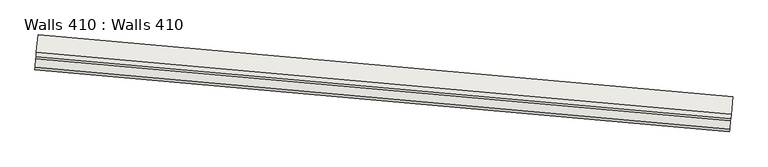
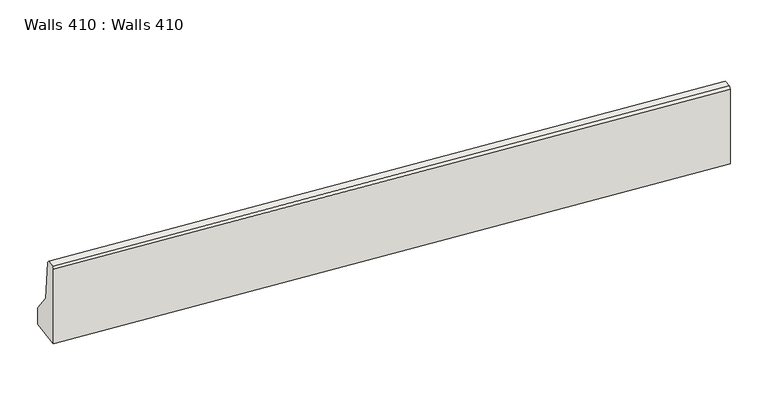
"""IFC4 building model written with IfcOpenShell, lengths in millimetres: wall geometry, Walls 410 : Walls 410."""

from ifc_helpers import new_model, si_unit, frame, origin, place, context, project, spatial, polyline, outline, extrude, source, transform, mapped, element, save


def walls_410_walls_410_e31667a4(model_context):
    return source(origin(), model_context, "Body", "SweptSolid", [
        extrude(outline(polyline([(638180.0, 400.0000001), (638430.0, 200.0), (638935.0, 150.0), (638960.0, 125.0), (638960.0, 25.0), (638935.0, 0.0), (637960.0, 0.0), (637960.0, 400.0000001), (638180.0, 400.0000001)])), frame((-523268.7600741, -432463.1314487, 0.0), z_axis=(-0.9960550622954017, 0.08873732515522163, 0.0), x_axis=(0.0, 0.0, 1.0)), (0.0, 0.0, 1.0), 8000.0000001),
    ])


if __name__ == "__main__":
    model = new_model("IFC4")
    model_context = context("Model", 3, world=origin())
    ifc_project = project(units=[si_unit("LENGTHUNIT", "METRE", prefix="MILLI")], contexts=[model_context])
    site = spatial("IfcSite", under=ifc_project)
    building = spatial("IfcBuilding", under=site)
    placement = place(None, origin())
    walls_410_walls_410_shape = walls_410_walls_410_e31667a4(model_context)
    element("IfcWall", 1, ObjectType="Walls 410 : Walls 410", at=placement, inside=building, context=model_context, shape_type="MappedRepresentation", body=[
        mapped(walls_410_walls_410_shape, transform((0.0, 0.0, 0.0), x_axis=(1.0, 0.0, 0.0), y_axis=(0.0, 1.0, 0.0), z_axis=(0.0, 0.0, 1.0))),
    ])
    save(model, "model.ifc")
